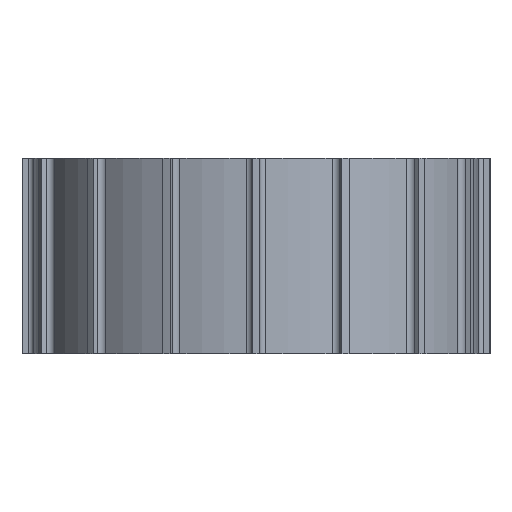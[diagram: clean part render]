
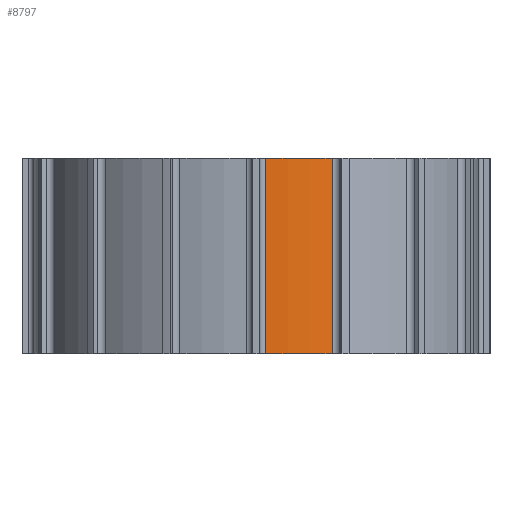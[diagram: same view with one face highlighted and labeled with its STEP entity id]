
A CAD part, front view. The second image highlights one B-rep face of the part: STEP entity #8797.
In plain terms, the highlighted cylindrical face has radius 57 mm (diameter 114 mm), a partial arc.
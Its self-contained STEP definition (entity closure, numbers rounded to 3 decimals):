
#237 = CIRCLE ( 'NONE', #7856, 57. ) ;
#269 = CARTESIAN_POINT ( 'NONE',  ( 2.436, -56.948, -5.749 ) ) ;
#289 = CIRCLE ( 'NONE', #10622, 57. ) ;
#402 = CARTESIAN_POINT ( 'NONE',  ( 2.436, -56.948, 50. ) ) ;
#1749 = DIRECTION ( 'NONE',  ( 1., 0., 0. ) ) ;
#1765 = DIRECTION ( 'NONE',  ( 0., 0., -1. ) ) ;
#2049 = DIRECTION ( 'NONE',  ( 0., 0., 1. ) ) ;
#2190 = DIRECTION ( 'NONE',  ( 0., 0., 1. ) ) ;
#2257 = CARTESIAN_POINT ( 'NONE',  ( 19.543, -53.545, 50. ) ) ;
#2333 = ORIENTED_EDGE ( 'NONE', *, *, #5695, .F. ) ;
#2575 = ORIENTED_EDGE ( 'NONE', *, *, #3462, .F. ) ;
#2725 = VERTEX_POINT ( 'NONE', #2257 ) ;
#3209 = AXIS2_PLACEMENT_3D ( 'NONE', #4323, #1765, #8698 ) ;
#3305 = LINE ( 'NONE', #5063, #4677 ) ;
#3358 = CYLINDRICAL_SURFACE ( 'NONE', #3209, 57. ) ;
#3462 = EDGE_CURVE ( 'NONE', #10014, #8917, #6504, .T. ) ;
#3508 = CARTESIAN_POINT ( 'NONE',  ( 0., 0., 0. ) ) ;
#3633 = ORIENTED_EDGE ( 'NONE', *, *, #4346, .T. ) ;
#4323 = CARTESIAN_POINT ( 'NONE',  ( 0., 0., 50. ) ) ;
#4346 = EDGE_CURVE ( 'NONE', #10014, #9172, #237, .T. ) ;
#4677 = VECTOR ( 'NONE', #8531, 1000. ) ;
#5063 = CARTESIAN_POINT ( 'NONE',  ( 19.543, -53.545, -6.107 ) ) ;
#5117 = FACE_OUTER_BOUND ( 'NONE', #6588, .T. ) ;
#5503 = ORIENTED_EDGE ( 'NONE', *, *, #9929, .T. ) ;
#5695 = EDGE_CURVE ( 'NONE', #8917, #2725, #289, .T. ) ;
#6423 = CARTESIAN_POINT ( 'NONE',  ( 0., 0., 50. ) ) ;
#6504 = LINE ( 'NONE', #269, #7665 ) ;
#6588 = EDGE_LOOP ( 'NONE', ( #3633, #5503, #2333, #2575 ) ) ;
#7665 = VECTOR ( 'NONE', #2190, 1000. ) ;
#7672 = CARTESIAN_POINT ( 'NONE',  ( 19.543, -53.545, 0. ) ) ;
#7856 = AXIS2_PLACEMENT_3D ( 'NONE', #3508, #8738, #1749 ) ;
#8531 = DIRECTION ( 'NONE',  ( 0., 0., 1. ) ) ;
#8698 = DIRECTION ( 'NONE',  ( -1., 0., 0. ) ) ;
#8738 = DIRECTION ( 'NONE',  ( 0., 0., 1. ) ) ;
#8797 = ADVANCED_FACE ( 'NONE', ( #5117 ), #3358, .T. ) ;
#8917 = VERTEX_POINT ( 'NONE', #402 ) ;
#8919 = CARTESIAN_POINT ( 'NONE',  ( 2.436, -56.948, 0. ) ) ;
#9172 = VERTEX_POINT ( 'NONE', #7672 ) ;
#9880 = DIRECTION ( 'NONE',  ( 1., 0., 0. ) ) ;
#9929 = EDGE_CURVE ( 'NONE', #9172, #2725, #3305, .T. ) ;
#10014 = VERTEX_POINT ( 'NONE', #8919 ) ;
#10622 = AXIS2_PLACEMENT_3D ( 'NONE', #6423, #2049, #9880 ) ;
